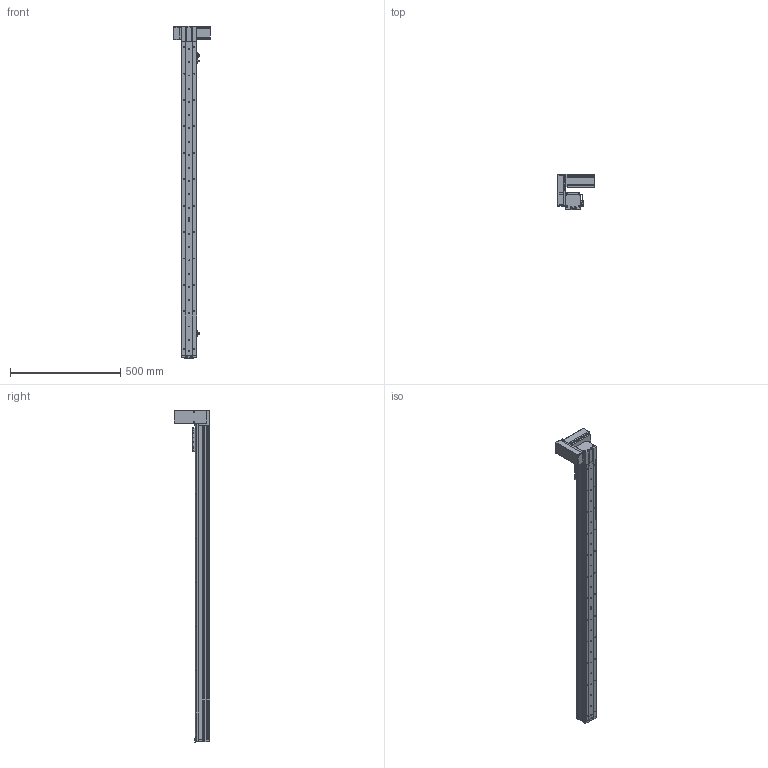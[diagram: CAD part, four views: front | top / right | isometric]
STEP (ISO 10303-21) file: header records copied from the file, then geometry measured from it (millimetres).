
FILE_DESCRIPTION (( 'STEP AP214' ), '1' );
FILE_NAME ('KSD68BS-S1250-MRU-CR.STEP', '2019-11-08T06:16:50', ( '微软用户' ), ( '微软中国' ), 'SwSTEP 2.0', 'SolidWorks 2014', '' );
FILE_SCHEMA (( 'AUTOMOTIVE_DESIGN' ));
Length unit declared in the file: millimetre
Products named in the file (14): 68遵裔啣揤啣1; 68宽单导轨全封闭丝杆传动安装板1防护罩; KSD68BS 1250行程侧板全封闭; 68宽单导轨全封闭同步带端板; 68单导轨全封闭同步带电机座右; 68单导轨全封闭同步带安装板; 悵誘欶奻狟殏; 68宽马达安装板连板上折同步带; 感应片68宽全封闭; U倰嫖萇EEㄜSX672; 台达ECMA－C20604AS伺服电机（400W); KSD68BS 1250行程底板全封闭; KSD68BS-S1250-MRU-CR; KSD68BS 1250行程盖板全封闭
Assembly tree (17 placements, depth 2):
  KSD68BS-S1250-MRU-CR
    KSD68BS 1250行程底板全封闭
    台达ECMA－C20604AS伺服电机（400W)
    U倰嫖萇EEㄜSX672  x3
    感应片68宽全封闭
    68宽马达安装板连板上折同步带
    悵誘欶奻狟殏
    68单导轨全封闭同步带安装板
    68单导轨全封闭同步带电机座右
    68宽单导轨全封闭同步带端板
    KSD68BS 1250行程侧板全封闭  x2
    68宽单导轨全封闭丝杆传动安装板1防护罩
    68遵裔啣揤啣1  x2
    KSD68BS 1250行程盖板全封闭
Bounding box: 167.2 x 159.5 x 1508.1 mm (x, y, z)
Volume: 2873973.2 mm3; surface area: 1131014 mm2
Topology: 18 solids, 18 shells, 1550 faces, 4435 edges, 2833 vertices
Faces by surface type: cylinder 747, plane 631, cone 172
Entity records: 49702 total; most frequent: CARTESIAN_POINT 8559, DIRECTION 7427, ORIENTED_EDGE 7106, EDGE_CURVE 3553, AXIS2_PLACEMENT_3D 2691, VERTEX_POINT 2331, VECTOR 2045, LINE 2045
